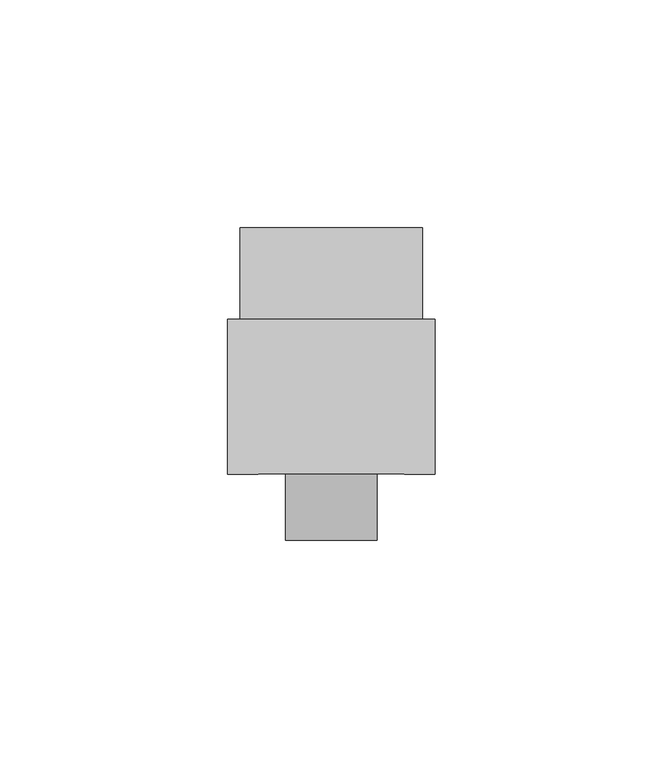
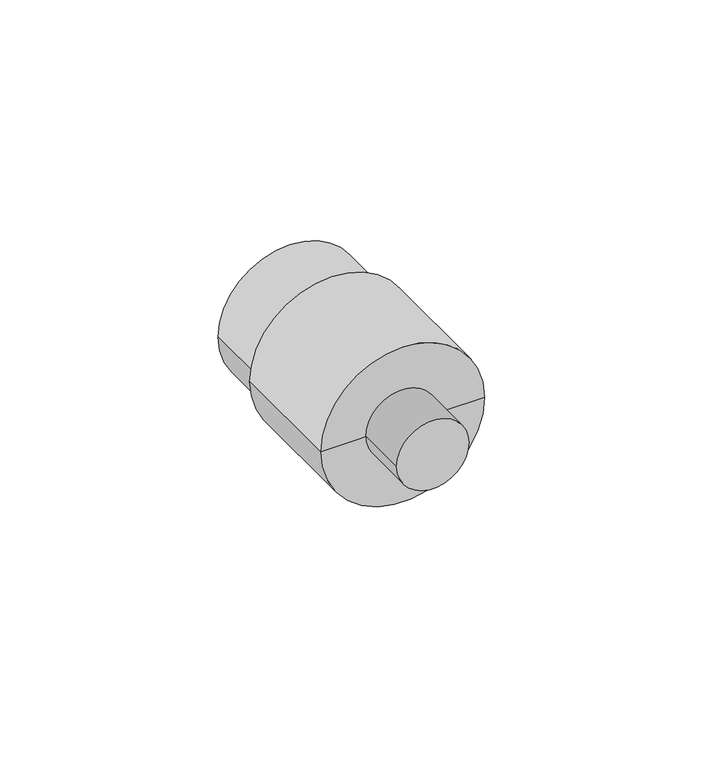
"""IFC4 building model written with IfcOpenShell, lengths in millimetres: pipe fitting geometry, NIRON RED termofusion roscado enlace rosca macho : Estándar."""

from ifc_helpers import new_model, si_unit, point, frame, origin, origin_2d, place, context, project, spatial, circle_curve, trimmed, segment, composite_curve, outline, extrude, source, transform, mapped, element, save
from ifc_brep_helpers import plane_surface, cylinder_surface, advanced_brep


def pipe_fitting_5a01d07c(model_context):
    return source(origin(), model_context, "Body", "SolidModel", [
        extrude(outline(composite_curve([segment(trimmed(circle_curve(origin_2d(), 10.0), [point((0.0, -10.0))], [point((0.0, 10.0))], False, "CARTESIAN"), True, "CONTINUOUS"), segment(trimmed(circle_curve(origin_2d(), 10.0), [point((0.0, 10.0))], [point((0.0, -10.0))], False, "CARTESIAN"), True, "CONTINUOUS")], self_intersect=False)), frame((0.0, -5.0, 0.0), z_axis=(0.0, 1.0, 0.0), x_axis=(0.0, 0.0, 1.0)), (0.0, 0.0, 1.0), 30.0),
        advanced_brep(
        [(20.0, 63.5, 0.0), (-20.0, 63.5, 0.0), (0.0, 63.5, 0.0), (22.75, 9.5, 0.0), (-22.75, 9.5, 0.0), (-22.75, 43.5, 0.0), (22.75, 43.5, 0.0), (0.0, 9.5, 0.0), (20.0, 43.5, 0.0), (-20.0, 43.5, 0.0)],
        [
            (0, 1, circle_curve(frame((0.0, 63.5, 0.0), z_axis=(0.0, 1.0, 0.0), x_axis=(-1.0, 0.0, 0.0)), 20.0)),
            (1, 2),
            (2, 0),
            (1, 0, circle_curve(frame((0.0, 63.5, 0.0), z_axis=(0.0, 1.0, 0.0), x_axis=(-1.0, 0.0, 0.0)), 20.0)),
            (3, 4, circle_curve(frame((0.0, 9.5, 0.0), z_axis=(0.0, 1.0, 0.0), x_axis=(-1.0, 0.0, 0.0)), 22.75)),
            (4, 5),
            (5, 6, circle_curve(frame((0.0, 43.5, 0.0), z_axis=(0.0, -1.0, 0.0), x_axis=(-1.0, 0.0, 0.0)), 22.75)),
            (6, 3),
            (4, 3, circle_curve(frame((0.0, 9.5, 0.0), z_axis=(0.0, 1.0, 0.0), x_axis=(-1.0, 0.0, 0.0)), 22.75)),
            (6, 5, circle_curve(frame((0.0, 43.5, 0.0), z_axis=(0.0, -1.0, 0.0), x_axis=(-1.0, 0.0, 0.0)), 22.75)),
            (7, 4),
            (3, 7),
            (8, 9, circle_curve(frame((0.0, 43.5, 0.0), z_axis=(0.0, 1.0, 0.0), x_axis=(-1.0, 0.0, 0.0)), 20.0)),
            (9, 1),
            (0, 8),
            (9, 8, circle_curve(frame((0.0, 43.5, 0.0), z_axis=(0.0, 1.0, 0.0), x_axis=(-1.0, 0.0, 0.0)), 20.0)),
            (5, 9),
            (8, 6),
        ],
        [
            plane_surface(frame((0.0, 63.5, 0.0), z_axis=(0.0, 1.0, 0.0), x_axis=(-1.0, 0.0, 0.0))),
            cylinder_surface(frame((0.0, 73.5, 0.0), z_axis=(0.0, -1.0, 0.0), x_axis=(-1.0, 0.0, 0.0)), 22.75),
            plane_surface(frame((0.0, 9.5, 0.0), z_axis=(0.0, -1.0, 0.0), x_axis=(-1.0, 0.0, 0.0))),
            cylinder_surface(frame((0.0, 73.5, 0.0), z_axis=(0.0, -1.0, 0.0), x_axis=(-1.0, 0.0, 0.0)), 20.0),
            plane_surface(frame((0.0, 43.5, 0.0), z_axis=(0.0, 1.0, 0.0), x_axis=(-1.0, 0.0, 0.0))),
        ],
        [
            (0, [[1, 2, 3]]),
            (0, [[4, -3, -2]]),
            (1, [[5, 6, 7, 8]]),
            (1, [[9, -8, 10, -6]]),
            (2, [[11, -5, 12]]),
            (2, [[-12, -9, -11]]),
            (3, [[13, 14, -1, 15]]),
            (3, [[16, -15, -4, -14]]),
            (4, [[-7, 17, -13, 18]]),
            (4, [[-10, -18, -16, -17]]),
        ],
    ),
    ])


if __name__ == "__main__":
    model = new_model("IFC4")
    model_context = context("Model", 3, world=origin())
    ifc_project = project(units=[si_unit("LENGTHUNIT", "METRE", prefix="MILLI")], contexts=[model_context])
    site = spatial("IfcSite", under=ifc_project)
    building = spatial("IfcBuilding", under=site)
    placement = place(None, origin())
    pipe_fitting_shape = pipe_fitting_5a01d07c(model_context)
    element("IfcPipeFitting", 1, ObjectType="NIRON RED termofusion roscado enlace rosca macho : Estándar", at=placement, inside=building, context=model_context, shape_type="MappedRepresentation", body=[
        mapped(pipe_fitting_shape, transform((0.0, 0.0, 0.0), x_axis=(1.0, 0.0, 0.0), y_axis=(0.0, 1.0, 0.0), z_axis=(0.0, 0.0, 1.0))),
    ])
    save(model, "model.ifc")
